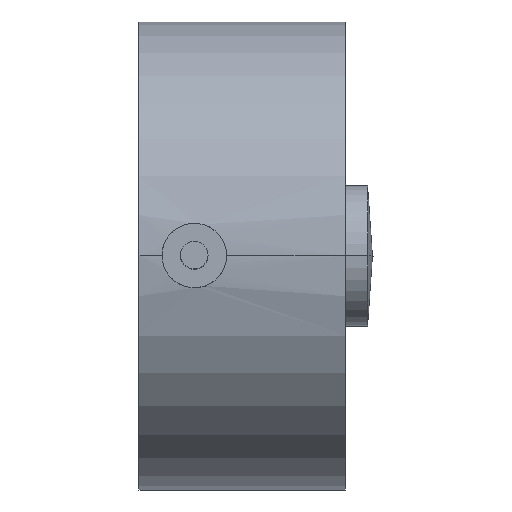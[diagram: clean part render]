
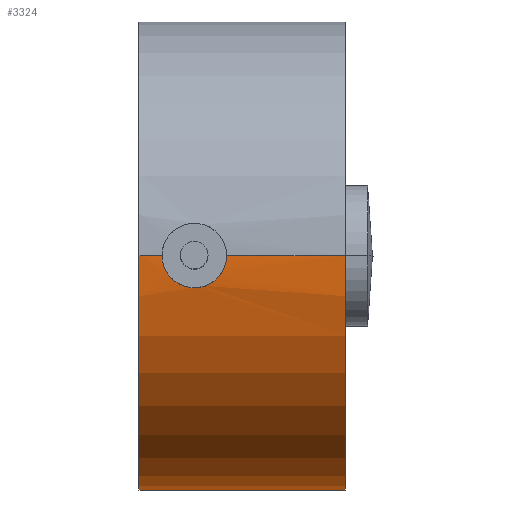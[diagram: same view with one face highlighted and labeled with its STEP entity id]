
A CAD part, top view. The second image highlights one B-rep face of the part: STEP entity #3324.
In plain terms, the highlighted cylindrical face has radius 25.4 mm (diameter 50.8 mm), a partial arc.
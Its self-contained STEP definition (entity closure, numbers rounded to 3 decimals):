
#34=CARTESIAN_POINT('',(-6.,0.,0.));
#35=DIRECTION('',(-1.,0.,0.));
#36=DIRECTION('',(0.,0.,-1.));
#37=AXIS2_PLACEMENT_3D('',#34,#35,#36);
#126=CARTESIAN_POINT('',(3.5,0.,25.4));
#148=CARTESIAN_POINT('',(-3.5,0.,25.4));
#155=CARTESIAN_POINT('',(0.,-3.5,25.158));
#156=CARTESIAN_POINT('',(0.192,-3.5,25.158));
#157=CARTESIAN_POINT('',(0.578,-3.47,25.162));
#158=CARTESIAN_POINT('',(1.193,-3.311,25.184));
#159=CARTESIAN_POINT('',(1.749,-3.052,25.217));
#160=CARTESIAN_POINT('',(2.249,-2.704,25.257));
#161=CARTESIAN_POINT('',(2.671,-2.288,25.298));
#162=CARTESIAN_POINT('',(3.025,-1.795,25.338));
#163=CARTESIAN_POINT('',(3.296,-1.235,25.372));
#164=CARTESIAN_POINT('',(3.468,-0.598,25.396));
#165=CARTESIAN_POINT('',(3.5,-0.199,25.4));
#166=CARTESIAN_POINT('',(3.5,0.,25.4));
#168=DIRECTION('',(-1.,0.,0.));
#169=VECTOR('',#168,12.9);
#170=CARTESIAN_POINT('',(16.4,0.,25.4));
#171=LINE('',#170,#169);
#172=CARTESIAN_POINT('',(16.4,0.,0.));
#173=DIRECTION('',(-1.,0.,0.));
#174=DIRECTION('',(0.,0.,-1.));
#175=AXIS2_PLACEMENT_3D('',#172,#173,#174);
#177=DIRECTION('',(-1.,0.,0.));
#178=VECTOR('',#177,22.4);
#179=CARTESIAN_POINT('',(16.4,0.,-25.4));
#180=LINE('',#179,#178);
#181=DIRECTION('',(-1.,0.,0.));
#182=VECTOR('',#181,2.5);
#183=CARTESIAN_POINT('',(-3.5,0.,25.4));
#184=LINE('',#183,#182);
#185=CARTESIAN_POINT('',(-3.5,0.,25.4));
#186=CARTESIAN_POINT('',(-3.5,-0.223,25.4));
#187=CARTESIAN_POINT('',(-3.46,-0.667,
25.394));
#188=CARTESIAN_POINT('',(-3.247,-1.371,25.366));
#189=CARTESIAN_POINT('',(-2.914,-1.977,25.325));
#190=CARTESIAN_POINT('',(-2.481,-2.5,25.278));
#191=CARTESIAN_POINT('',(-1.954,-2.93,25.231));
#192=CARTESIAN_POINT('',(-1.346,-3.257,25.191));
#193=CARTESIAN_POINT('',(-0.655,-3.461,
25.163));
#194=CARTESIAN_POINT('',(-0.219,-3.5,25.158));
#195=CARTESIAN_POINT('',(0.,-3.5,25.158));
#2986=CARTESIAN_POINT('',(16.4,0.,-25.4));
#2987=CARTESIAN_POINT('',(-6.,0.,-25.4));
#2988=VERTEX_POINT('',#2986);
#2989=VERTEX_POINT('',#2987);
#3006=CARTESIAN_POINT('',(16.4,0.,25.4));
#3007=VERTEX_POINT('',#3006);
#3008=CARTESIAN_POINT('',(-6.,0.,25.4));
#3009=VERTEX_POINT('',#3008);
#3186=VERTEX_POINT('',#126);
#3188=VERTEX_POINT('',#148);
#3189=VERTEX_POINT('',#155);
#3308=CARTESIAN_POINT('',(-7.27,0.,0.));
#3309=DIRECTION('',(1.,0.,0.));
#3310=DIRECTION('',(0.,0.,1.));
#3311=AXIS2_PLACEMENT_3D('',#3308,#3309,#3310);
#3312=CYLINDRICAL_SURFACE('',#3311,25.4);
#3313=ORIENTED_EDGE('',*,*,#3297,.T.);
#3314=ORIENTED_EDGE('',*,*,#3286,.F.);
#3316=ORIENTED_EDGE('',*,*,#3315,.F.);
#3317=ORIENTED_EDGE('',*,*,#3282,.T.);
#3318=ORIENTED_EDGE('',*,*,#3237,.T.);
#3319=ORIENTED_EDGE('',*,*,#3279,.F.);
#3321=ORIENTED_EDGE('',*,*,#3320,.T.);
#3322=EDGE_LOOP('',(#3313,#3314,#3316,#3317,#3318,#3319,#3321));
#3323=FACE_OUTER_BOUND('',#3322,.F.);
#3324=ADVANCED_FACE('',(#3323),#3312,.T.);
#38=CIRCLE('',#37,25.4);
#167=B_SPLINE_CURVE_WITH_KNOTS('',3,(#155,#156,#157,#158,#159,#160,#161,#162,
#163,#164,#165,#166),.UNSPECIFIED.,.F.,.F.,(4,1,1,1,1,1,1,1,1,4),(0.,
0.111,0.222,0.333,0.444,
0.556,0.667,0.778,0.889,1.),
.UNSPECIFIED.);
#176=CIRCLE('',#175,25.4);
#196=B_SPLINE_CURVE_WITH_KNOTS('',3,(#185,#186,#187,#188,#189,#190,#191,#192,
#193,#194,#195),.UNSPECIFIED.,.F.,.F.,(4,1,1,1,1,1,1,1,4),(0.,0.125,0.25,
0.375,0.5,0.625,0.75,0.875,1.),.UNSPECIFIED.);
#3237=EDGE_CURVE('',#2989,#3009,#38,.T.);
#3279=EDGE_CURVE('',#3188,#3009,#184,.T.);
#3282=EDGE_CURVE('',#2988,#2989,#180,.T.);
#3286=EDGE_CURVE('',#3007,#3186,#171,.T.);
#3297=EDGE_CURVE('',#3189,#3186,#167,.T.);
#3315=EDGE_CURVE('',#2988,#3007,#176,.T.);
#3320=EDGE_CURVE('',#3188,#3189,#196,.T.);
